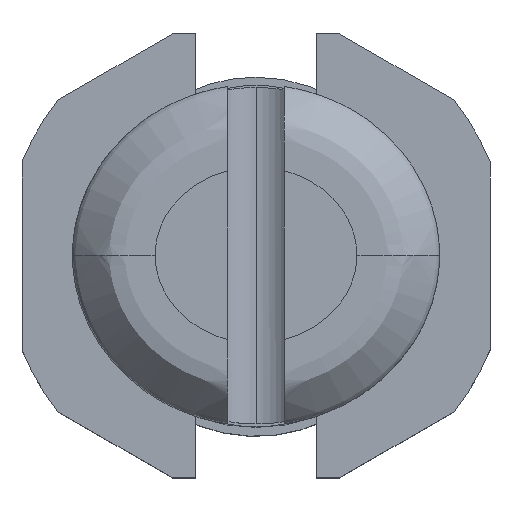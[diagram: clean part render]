
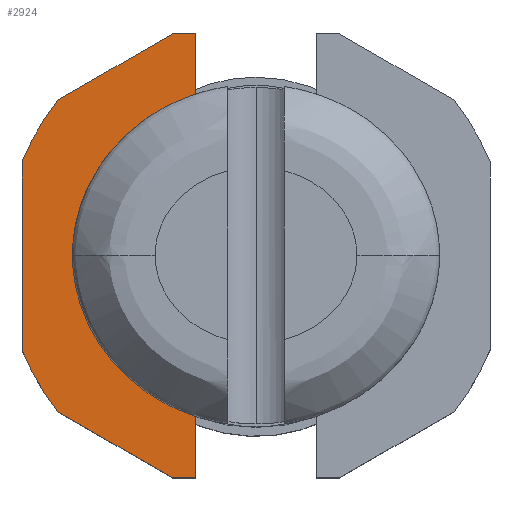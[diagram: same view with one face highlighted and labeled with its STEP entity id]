
A CAD part, top view. The second image highlights one B-rep face of the part: STEP entity #2924.
In plain terms, the highlighted planar face has unit normal (0, 0, 1).
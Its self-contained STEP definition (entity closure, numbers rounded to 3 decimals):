
#19 = VECTOR ( 'NONE', #1051, 1000. ) ;
#42 = ORIENTED_EDGE ( 'NONE', *, *, #11597, .F. ) ;
#146 = AXIS2_PLACEMENT_3D ( 'NONE', #6339, #10674, #2016 ) ;
#163 = CARTESIAN_POINT ( 'NONE',  ( -2.9, 1.164, 0.889 ) ) ;
#187 = VERTEX_POINT ( 'NONE', #13662 ) ;
#258 = VERTEX_POINT ( 'NONE', #786 ) ;
#393 = DIRECTION ( 'NONE',  ( 1., 0., 0. ) ) ;
#439 = EDGE_CURVE ( 'NONE', #187, #13268, #10575, .T. ) ;
#518 = ORIENTED_EDGE ( 'NONE', *, *, #4756, .T. ) ;
#540 = CARTESIAN_POINT ( 'NONE',  ( -2., -2.75, 0.889 ) ) ;
#786 = CARTESIAN_POINT ( 'NONE',  ( -2.065, -0.288, 0.889 ) ) ;
#1051 = DIRECTION ( 'NONE',  ( -1., 0., 0. ) ) ;
#1083 = EDGE_CURVE ( 'NONE', #7019, #187, #1491, .T. ) ;
#1328 = ORIENTED_EDGE ( 'NONE', *, *, #10727, .F. ) ;
#1442 = CARTESIAN_POINT ( 'NONE',  ( -1.037, 2.75, 0.889 ) ) ;
#1460 = EDGE_LOOP ( 'NONE', ( #2775, #13122, #5593, #1328, #42, #2267, #8890, #518, #14075, #11449, #9517, #9133 ) ) ;
#1491 = LINE ( 'NONE', #2623, #11507 ) ;
#1588 = CARTESIAN_POINT ( 'NONE',  ( -0.75, -2.75, 0.889 ) ) ;
#1617 = VECTOR ( 'NONE', #7253, 1000. ) ;
#1641 = DIRECTION ( 'NONE',  ( 0., 1., 0. ) ) ;
#1698 = VERTEX_POINT ( 'NONE', #163 ) ;
#1792 = CARTESIAN_POINT ( 'NONE',  ( -2.458, 1.929, 0.889 ) ) ;
#1883 = EDGE_CURVE ( 'NONE', #6887, #3212, #4500, .T. ) ;
#2016 = DIRECTION ( 'NONE',  ( -1., 0., 0. ) ) ;
#2164 = CIRCLE ( 'NONE', #10789, 2.085 ) ;
#2267 = ORIENTED_EDGE ( 'NONE', *, *, #6631, .F. ) ;
#2577 = EDGE_CURVE ( 'NONE', #258, #2946, #12411, .T. ) ;
#2623 = CARTESIAN_POINT ( 'NONE',  ( -0.75, 3.126, 0.889 ) ) ;
#2705 = VERTEX_POINT ( 'NONE', #6940 ) ;
#2775 = ORIENTED_EDGE ( 'NONE', *, *, #1083, .T. ) ;
#2924 = ADVANCED_FACE ( 'NONE', ( #9686 ), #11735, .F. ) ;
#2946 = VERTEX_POINT ( 'NONE', #13888 ) ;
#2954 = CARTESIAN_POINT ( 'NONE',  ( 0., 0., 0.889 ) ) ;
#3212 = VERTEX_POINT ( 'NONE', #5779 ) ;
#3505 = DIRECTION ( 'NONE',  ( -0.866, 0.5, 0. ) ) ;
#3632 = EDGE_CURVE ( 'NONE', #7019, #2705, #2164, .T. ) ;
#3821 = CARTESIAN_POINT ( 'NONE',  ( -2.065, 2.086, 0.889 ) ) ;
#4500 = LINE ( 'NONE', #9760, #13561 ) ;
#4628 = CARTESIAN_POINT ( 'NONE',  ( -0.75, 1.945, 0.889 ) ) ;
#4674 = VECTOR ( 'NONE', #393, 1000. ) ;
#4756 = EDGE_CURVE ( 'NONE', #6887, #11398, #7076, .T. ) ;
#4788 = AXIS2_PLACEMENT_3D ( 'NONE', #9668, #14011, #8602 ) ;
#4924 = DIRECTION ( 'NONE',  ( 0., 0., 1. ) ) ;
#4928 = DIRECTION ( 'NONE',  ( -1., 0., 0. ) ) ;
#5080 = DIRECTION ( 'NONE',  ( 0., 1., 0. ) ) ;
#5108 = DIRECTION ( 'NONE',  ( 0., -1., 0. ) ) ;
#5173 = CARTESIAN_POINT ( 'NONE',  ( -0.75, -3.126, 0.889 ) ) ;
#5593 = ORIENTED_EDGE ( 'NONE', *, *, #11064, .F. ) ;
#5609 = LINE ( 'NONE', #7681, #11810 ) ;
#5779 = CARTESIAN_POINT ( 'NONE',  ( -2.458, -1.929, 0.889 ) ) ;
#5956 = LINE ( 'NONE', #3821, #9537 ) ;
#6339 = CARTESIAN_POINT ( 'NONE',  ( 0., 0., 0.889 ) ) ;
#6631 = EDGE_CURVE ( 'NONE', #3212, #13084, #7066, .T. ) ;
#6887 = VERTEX_POINT ( 'NONE', #13808 ) ;
#6940 = CARTESIAN_POINT ( 'NONE',  ( -2.065, 0.288, 0.889 ) ) ;
#7019 = VERTEX_POINT ( 'NONE', #4628 ) ;
#7066 = CIRCLE ( 'NONE', #9330, 3.125 ) ;
#7076 = LINE ( 'NONE', #540, #4674 ) ;
#7253 = DIRECTION ( 'NONE',  ( 0., 1., 0. ) ) ;
#7366 = EDGE_CURVE ( 'NONE', #258, #2705, #5956, .T. ) ;
#7681 = CARTESIAN_POINT ( 'NONE',  ( -0.442, 3.094, 0.889 ) ) ;
#8046 = LINE ( 'NONE', #12448, #1617 ) ;
#8275 = CARTESIAN_POINT ( 'NONE',  ( 0., 0., 0.889 ) ) ;
#8602 = DIRECTION ( 'NONE',  ( -1., 0., 0. ) ) ;
#8890 = ORIENTED_EDGE ( 'NONE', *, *, #1883, .F. ) ;
#9092 = VECTOR ( 'NONE', #5108, 1000. ) ;
#9133 = ORIENTED_EDGE ( 'NONE', *, *, #3632, .F. ) ;
#9154 = VERTEX_POINT ( 'NONE', #1792 ) ;
#9330 = AXIS2_PLACEMENT_3D ( 'NONE', #13686, #10340, #4928 ) ;
#9452 = LINE ( 'NONE', #5173, #9092 ) ;
#9517 = ORIENTED_EDGE ( 'NONE', *, *, #7366, .T. ) ;
#9537 = VECTOR ( 'NONE', #5080, 1000. ) ;
#9668 = CARTESIAN_POINT ( 'NONE',  ( 0., 0., 0.889 ) ) ;
#9686 = FACE_OUTER_BOUND ( 'NONE', #1460, .T. ) ;
#9760 = CARTESIAN_POINT ( 'NONE',  ( -2.458, -1.929, 0.889 ) ) ;
#10340 = DIRECTION ( 'NONE',  ( 0., 0., -1. ) ) ;
#10465 = DIRECTION ( 'NONE',  ( 1., 0., 0. ) ) ;
#10575 = LINE ( 'NONE', #13990, #19 ) ;
#10583 = AXIS2_PLACEMENT_3D ( 'NONE', #2954, #12830, #12762 ) ;
#10674 = DIRECTION ( 'NONE',  ( 0., 0., -1. ) ) ;
#10727 = EDGE_CURVE ( 'NONE', #1698, #9154, #11588, .T. ) ;
#10789 = AXIS2_PLACEMENT_3D ( 'NONE', #8275, #4924, #10465 ) ;
#11064 = EDGE_CURVE ( 'NONE', #9154, #13268, #5609, .T. ) ;
#11398 = VERTEX_POINT ( 'NONE', #1588 ) ;
#11449 = ORIENTED_EDGE ( 'NONE', *, *, #2577, .F. ) ;
#11481 = CARTESIAN_POINT ( 'NONE',  ( -2.9, -1.164, 0.889 ) ) ;
#11507 = VECTOR ( 'NONE', #1641, 1000. ) ;
#11588 = CIRCLE ( 'NONE', #4788, 3.125 ) ;
#11597 = EDGE_CURVE ( 'NONE', #13084, #1698, #8046, .T. ) ;
#11735 = PLANE ( 'NONE',  #146 ) ;
#11767 = EDGE_CURVE ( 'NONE', #2946, #11398, #9452, .T. ) ;
#11810 = VECTOR ( 'NONE', #13301, 1000. ) ;
#12411 = CIRCLE ( 'NONE', #10583, 2.085 ) ;
#12448 = CARTESIAN_POINT ( 'NONE',  ( -2.9, 1.164, 0.889 ) ) ;
#12762 = DIRECTION ( 'NONE',  ( 1., 0., 0. ) ) ;
#12830 = DIRECTION ( 'NONE',  ( 0., 0., 1. ) ) ;
#13084 = VERTEX_POINT ( 'NONE', #11481 ) ;
#13122 = ORIENTED_EDGE ( 'NONE', *, *, #439, .T. ) ;
#13268 = VERTEX_POINT ( 'NONE', #1442 ) ;
#13301 = DIRECTION ( 'NONE',  ( 0.866, 0.5, 0. ) ) ;
#13561 = VECTOR ( 'NONE', #3505, 1000. ) ;
#13662 = CARTESIAN_POINT ( 'NONE',  ( -0.75, 2.75, 0.889 ) ) ;
#13686 = CARTESIAN_POINT ( 'NONE',  ( 0., 0., 0.889 ) ) ;
#13808 = CARTESIAN_POINT ( 'NONE',  ( -1.037, -2.75, 0.889 ) ) ;
#13888 = CARTESIAN_POINT ( 'NONE',  ( -0.75, -1.945, 0.889 ) ) ;
#13990 = CARTESIAN_POINT ( 'NONE',  ( -2., 2.75, 0.889 ) ) ;
#14011 = DIRECTION ( 'NONE',  ( 0., 0., -1. ) ) ;
#14075 = ORIENTED_EDGE ( 'NONE', *, *, #11767, .F. ) ;
